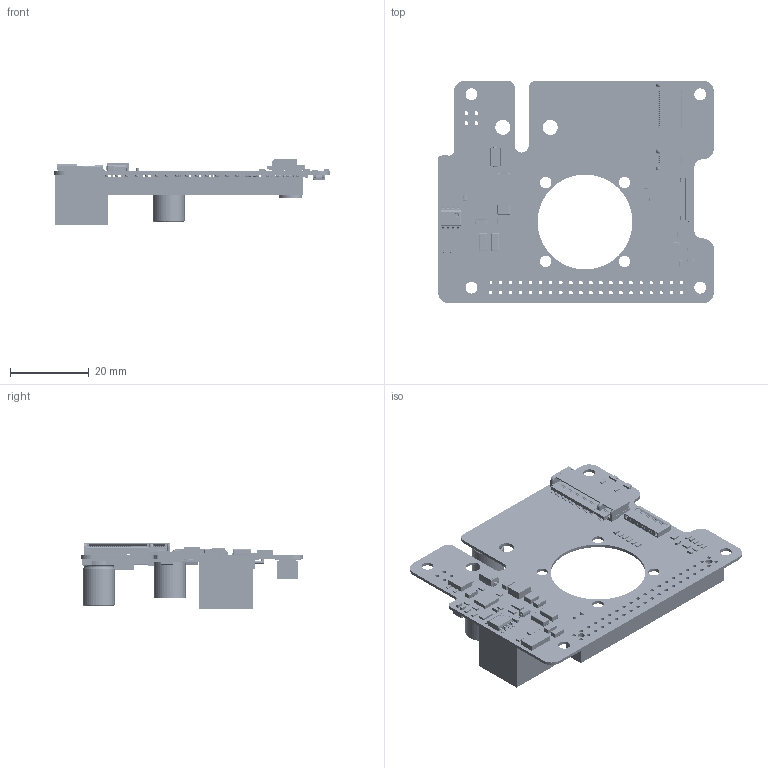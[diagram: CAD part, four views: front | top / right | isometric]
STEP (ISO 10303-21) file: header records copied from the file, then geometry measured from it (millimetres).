
FILE_DESCRIPTION(('Open CASCADE Model'),'2;1');
FILE_NAME('Open CASCADE Shape Model','2025-01-14T14:18:35',('Author'),( 'Open CASCADE'),'Open CASCADE STEP processor 6.5','Open CASCADE 6.5' ,'Unknown');
FILE_SCHEMA(('AUTOMOTIVE_DESIGN { 1 0 10303 214 1 1 1 1 }'));
Length unit declared in the file: millimetre
Products named in the file (220): PCB; Board; C7; C_0805; C_0805-3038_AF1_ASM; C_0805-10418_AF1_ASM; 500; _1_1_2_30001; 4_A; R18; R0603; R_0603-3615_AF0_ASM; R_0603-3601_AF0_ASM; _2_1_2_3_4_AF0; _7_1_2_AF0; 5_1_2_3_400; C10; C_0603; C_0603-7177_AF0_ASM; C_0603-683_AF0_ASM; 2_1_200; _1_1_20001; 3_1_2_A; R28; R1206; R_1206-9935_AF0_ASM; R_1206-3263_AF0_ASM; 5_1_2_3_4_5_6_7_800; _2_1_2_3_4_5_6_7_80001; _7_1_2_3_4_5_6_AF0; C36; C_1210; C_1210-98_AF0_ASM; C_1210-6204_AF0; C1; 583114640; Cylinder; 1486432064; Extruded; C2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
Assembly tree (341 placements, depth 6):
  PCB
    Board
    C7
      C_0805
        C_0805-3038_AF1_ASM
          C_0805-10418_AF1_ASM
            500
            _1_1_2_30001
            4_A
    R18
      R0603
        R_0603-3615_AF0_ASM
          R_0603-3601_AF0_ASM
            _2_1_2_3_4_AF0
            _7_1_2_AF0
            5_1_2_3_400
    C10
      C_0603
        C_0603-7177_AF0_ASM
          C_0603-683_AF0_ASM
            2_1_200
            _1_1_20001
            3_1_2_A
    R28
      R1206
        R_1206-9935_AF0_ASM
          R_1206-3263_AF0_ASM
            5_1_2_3_4_5_6_7_800
            _2_1_2_3_4_5_6_7_80001
            _7_1_2_3_4_5_6_AF0
    C36
      C_1210
        C_1210-98_AF0_ASM
          C_1210-6204_AF0
    C1
      583114640
        Cylinder
      1486432064
        Extruded
    C2
      3D_Model
        C_1206-6326_AF0_ASM
          C_1206-2941_AF0_ASM
            _1_1_2_3_40001
            2_1_2_300
            3_1_2_3_A
    C3
      3D_Model
        C_1206-6326_AF0_ASM
          C_1206-2941_AF0_ASM
            _1_1_2_3_40001
            2_1_2_300
            3_1_2_3_A
    C4
      C_0805
        C_0805-3038_AF1_ASM
          C_0805-10418_AF1_ASM
            500
            _1_1_2_30001
            4_A
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Bounding box: 70.02 x 56.52 x 16.63 mm (x, y, z)
Volume: 8236.8 mm3; surface area: 15487.3 mm2
Topology: 289 solids, 289 shells, 38117 faces, 102027 edges, 66997 vertices
Faces by surface type: plane 26278, extrusion 8910, cylinder 2110, sphere 482, bspline 311, torus 22, cone 4
Full cylindrical faces by diameter (mm): 0.8 x4, 0.889 x2, 0.95 x44, 1.3 x1, 1.8 x3, 3.8 x2, 8 x1
Entity records: 853779 total; most frequent: CARTESIAN_POINT 301694, DIRECTION 81405, VECTOR 60045, LINE 58256, ORIENTED_EDGE 54776, PCURVE 54776, DEFINITIONAL_REPRESENTATION 54776, EDGE_CURVE 27388
